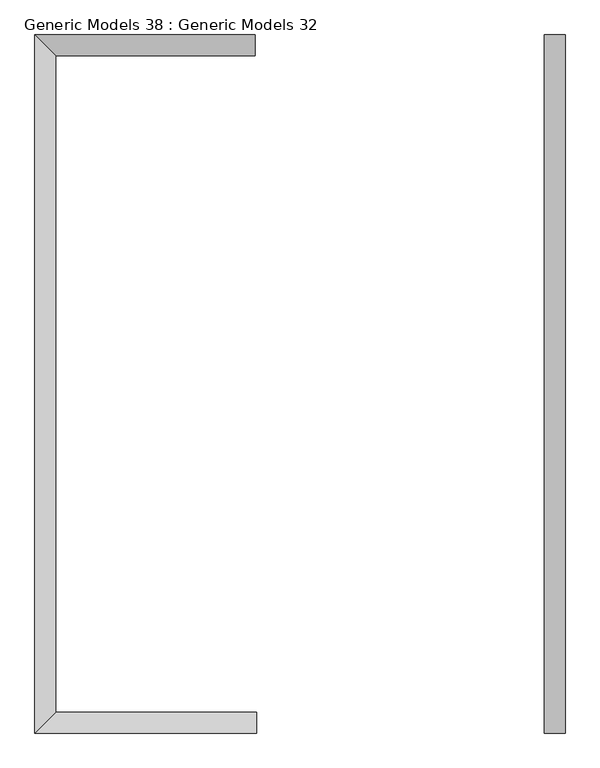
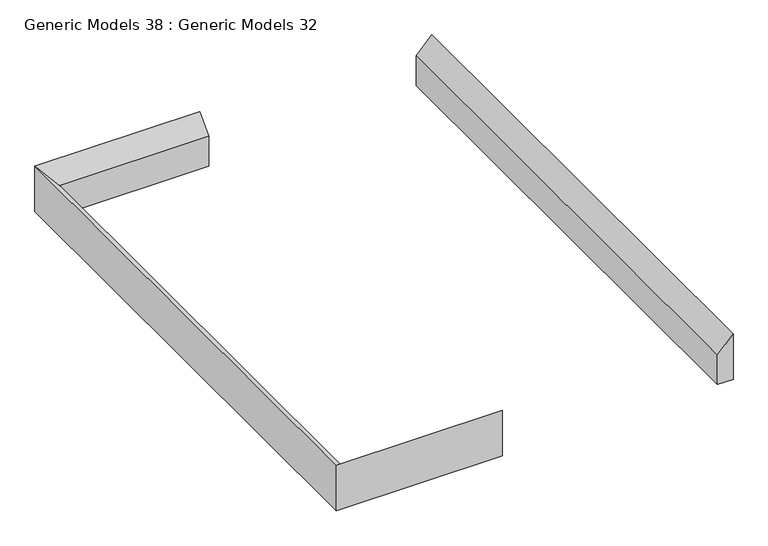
"""IFC4 building model written with IfcOpenShell, lengths in millimetres: proxy geometry, Generic Models 38 : Generic Models 32."""

from ifc_helpers import new_model, si_unit, frame, origin, place, context, project, spatial, polyline, outline, extrude, faceted_brep, source, transform, mapped, element, save


def generic_models_38_generic_models_32_1923ef68(model_context):
    return source(origin(), model_context, "Body", "SolidModel", [
        extrude(outline(polyline([(44170.0, -112277.3747667), (44170.0, -112127.3747667), (44630.0, -112127.3747667), (44470.0, -112277.3747667), (44170.0, -112277.3747667)])), frame((0.0, 15207.4703267, 0.0), z_axis=(0.0, 1.0, 0.0), x_axis=(0.0, 0.0, 1.0)), (0.0, 0.0, 1.0), 5000.0221796),
        faceted_brep([(-115777.3747667, 15357.4703267, 44470.0), (-115777.3747667, 15357.4703267, 44170.0), (-115777.3747667, 20057.4925063, 44170.0), (-115777.3747667, 20057.4925063, 44470.0), (-115927.3747667, 15207.4703267, 44630.0), (-115927.3747667, 20207.4925063, 44630.0), (-115927.3747667, 15207.4703267, 44170.0), (-115927.3747667, 20207.4925063, 44170.0), (-114347.9372768, 20057.4925063, 44170.0), (-114347.9372768, 20057.4925063, 44470.0), (-114347.9372768, 20207.4925063, 44630.0), (-114347.9372768, 20207.4925063, 44170.0), (-114337.3747667, 15357.4703267, 44170.0), (-114337.3747667, 15357.4703267, 44470.0), (-114337.3747667, 15207.4703267, 44630.0), (-114337.3747667, 15207.4703267, 44170.0)], [[[0, 1, 2, 3]], [[4, 0, 3, 5]], [[6, 4, 5, 7]], [[3, 2, 8, 9]], [[5, 3, 9, 10]], [[7, 5, 10, 11]], [[12, 13, 14, 15]], [[8, 11, 10, 9]], [[13, 12, 1, 0]], [[14, 13, 0, 4]], [[15, 14, 4, 6]], [[12, 15, 6, 7, 11, 8, 2, 1]]]),
    ])


if __name__ == "__main__":
    model = new_model("IFC4")
    model_context = context("Model", 3, world=origin())
    ifc_project = project(units=[si_unit("LENGTHUNIT", "METRE", prefix="MILLI")], contexts=[model_context])
    site = spatial("IfcSite", under=ifc_project)
    building = spatial("IfcBuilding", under=site)
    placement = place(None, origin())
    generic_models_38_generic_models_32_shape = generic_models_38_generic_models_32_1923ef68(model_context)
    element("IfcBuildingElementProxy", 1, Name="Generic Models 38 : Generic Models 32", ObjectType="Generic Models 38 : Generic Models 32", at=placement, inside=building, context=model_context, shape_type="MappedRepresentation", body=[
        mapped(generic_models_38_generic_models_32_shape, transform((0.0, 0.0, 0.0), x_axis=(1.0, 0.0, 0.0), y_axis=(0.0, 1.0, 0.0), z_axis=(0.0, 0.0, 1.0))),
    ])
    save(model, "model.ifc")
